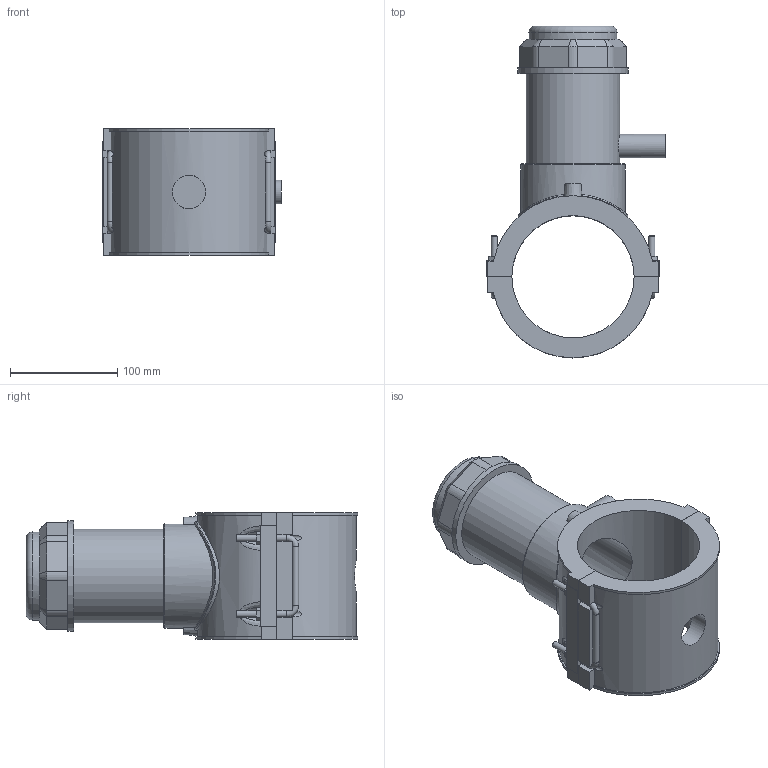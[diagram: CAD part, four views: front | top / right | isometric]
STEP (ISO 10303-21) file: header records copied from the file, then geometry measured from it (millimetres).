
FILE_DESCRIPTION(/* description */ ('PLASSON TAPPING SADDLE 4''''IPS x 1 3/4''''CTS'),/* implementation_level */ '2;1');
FILE_NAME(/* name */ 'C:\Dropbox\KIMPROJECTS-Inventor 2019\99-16-3568-Processing Inch\ASTM ElectroFusion 2021\5963B\5963BU03040007.ipt.stp',/* time_stamp */ '2021-08-30T09:56:31+03:00',/* author */ ('KIM'),/* organization */ (''),/* preprocessor_version */ 'ST-DEVELOPER v17.2',/* originating_system */ 'Autodesk Inventor 2019',/* authorisation */ '');
FILE_SCHEMA (('AUTOMOTIVE_DESIGN { 1 0 10303 214 3 1 1 }'));
Length unit declared in the file: millimetre
Products named in the file (1): 5963BU03040007
Bounding box: 166.61 x 309.74 x 118.11 mm (x, y, z)
Volume: 1393774.2 mm3; surface area: 221326.9 mm2
Topology: 1 solids, 1 shells, 216 faces, 587 edges, 384 vertices
Faces by surface type: plane 126, cylinder 60, cone 15, torus 9, bspline 6
Full cylindrical faces by diameter (mm): 6 x7, 17.68 x1, 22.1 x1, 31.36 x1, 71.883 x1, 82.152 x1, 87.287 x1, 97.555 x1, 102.69 x1
Entity records: 8586 total; most frequent: CARTESIAN_POINT 3048, ORIENTED_EDGE 1196, DIRECTION 1093, EDGE_CURVE 598, VERTEX_POINT 384, AXIS2_PLACEMENT_3D 377, LINE 339, VECTOR 339
